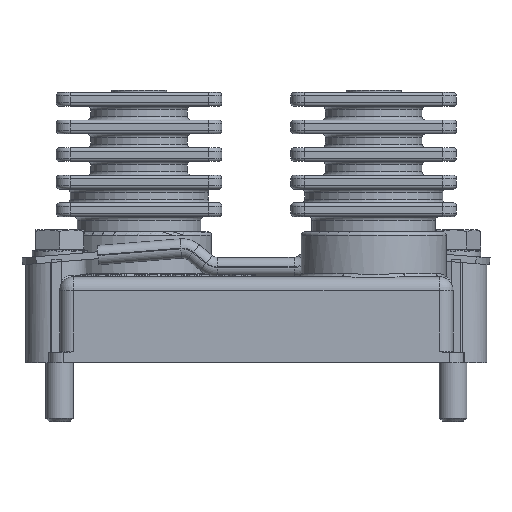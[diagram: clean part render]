
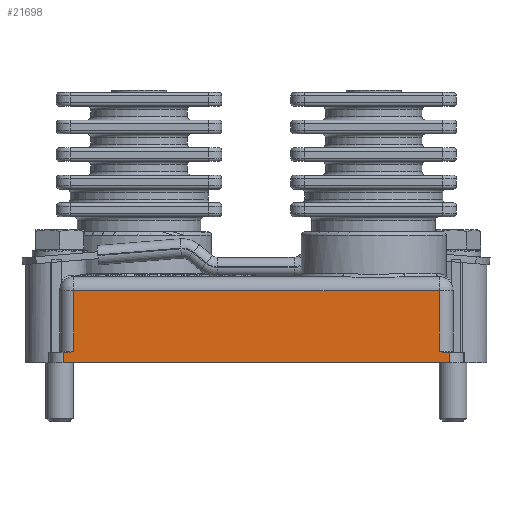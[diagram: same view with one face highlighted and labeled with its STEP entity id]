
A CAD part, left-side view. The second image highlights one B-rep face of the part: STEP entity #21698.
In plain terms, the highlighted planar face has unit normal (-1, 0, 0) as drawn and (0, -1, 0) by its records, which use the part's own axes.
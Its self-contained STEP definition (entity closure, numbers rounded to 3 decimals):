
#291=B_SPLINE_CURVE_WITH_KNOTS('',3,(#31045,#31046,#31047,#31048),
 .UNSPECIFIED.,.F.,.F.,(4,4),(0.,0.001),
 .UNSPECIFIED.);
#292=B_SPLINE_CURVE_WITH_KNOTS('',3,(#31053,#31054,#31055,#31056),
 .UNSPECIFIED.,.F.,.F.,(4,4),(0.,0.001),
 .UNSPECIFIED.);
#891=LINE('',#30405,#2132);
#978=LINE('',#31038,#2219);
#979=LINE('',#31041,#2220);
#980=LINE('',#31043,#2221);
#981=LINE('',#31050,#2222);
#982=LINE('',#31051,#2223);
#983=LINE('',#31058,#2224);
#984=LINE('',#31060,#2225);
#2132=VECTOR('',#25775,1000.);
#2219=VECTOR('',#25920,1000.);
#2220=VECTOR('',#25921,1000.);
#2221=VECTOR('',#25922,1000.);
#2222=VECTOR('',#25923,1000.);
#2223=VECTOR('',#25924,1000.);
#2224=VECTOR('',#25925,1000.);
#2225=VECTOR('',#25926,1000.);
#3193=PLANE('',#23129);
#5053=ORIENTED_EDGE('',*,*,#9110,.T.);
#5054=ORIENTED_EDGE('',*,*,#9111,.T.);
#5055=ORIENTED_EDGE('',*,*,#9112,.T.);
#5056=ORIENTED_EDGE('',*,*,#9113,.T.);
#5057=ORIENTED_EDGE('',*,*,#9114,.T.);
#5058=ORIENTED_EDGE('',*,*,#8931,.T.);
#5059=ORIENTED_EDGE('',*,*,#9115,.F.);
#5060=ORIENTED_EDGE('',*,*,#9116,.F.);
#5061=ORIENTED_EDGE('',*,*,#9117,.F.);
#5062=ORIENTED_EDGE('',*,*,#9118,.F.);
#8931=EDGE_CURVE('',#11034,#11036,#891,.T.);
#9110=EDGE_CURVE('',#11208,#11209,#978,.T.);
#9111=EDGE_CURVE('',#11209,#11210,#979,.T.);
#9112=EDGE_CURVE('',#11210,#11211,#980,.T.);
#9113=EDGE_CURVE('',#11211,#11212,#291,.T.);
#9114=EDGE_CURVE('',#11212,#11034,#981,.T.);
#9115=EDGE_CURVE('',#11213,#11036,#982,.T.);
#9116=EDGE_CURVE('',#11214,#11213,#292,.T.);
#9117=EDGE_CURVE('',#11215,#11214,#983,.T.);
#9118=EDGE_CURVE('',#11208,#11215,#984,.T.);
#11034=VERTEX_POINT('',#30399);
#11036=VERTEX_POINT('',#30404);
#11208=VERTEX_POINT('',#31039);
#11209=VERTEX_POINT('',#31040);
#11210=VERTEX_POINT('',#31042);
#11211=VERTEX_POINT('',#31044);
#11212=VERTEX_POINT('',#31049);
#11213=VERTEX_POINT('',#31052);
#11214=VERTEX_POINT('',#31057);
#11215=VERTEX_POINT('',#31059);
#13362=EDGE_LOOP('',(#5053,#5054,#5055,#5056,#5057,#5058,#5059,#5060,#5061,
#5062));
#14505=FACE_BOUND('',#13362,.T.);
#21698=ADVANCED_FACE('',(#14505),#3193,.T.);
#23129=AXIS2_PLACEMENT_3D('',#31037,#25918,#25919);
#25775=DIRECTION('',(-1.,0.,0.));
#25918=DIRECTION('',(0.,-1.,0.));
#25919=DIRECTION('',(0.,0.,-1.));
#25920=DIRECTION('',(1.,0.,0.));
#25921=DIRECTION('',(0.,0.,1.));
#25922=DIRECTION('',(-1.,0.,0.));
#25923=DIRECTION('',(0.,0.,1.));
#25924=DIRECTION('',(0.,0.,1.));
#25925=DIRECTION('',(1.,0.,0.));
#25926=DIRECTION('',(0.,0.,1.));
#30399=CARTESIAN_POINT('',(26.5,-30.,10.5));
#30404=CARTESIAN_POINT('',(-26.5,-30.,10.5));
#30405=CARTESIAN_POINT('',(0.,-30.,10.5));
#31037=CARTESIAN_POINT('',(0.,-30.,0.));
#31038=CARTESIAN_POINT('',(0.,-30.,0.));
#31039=CARTESIAN_POINT('',(-28.,-30.,0.));
#31040=CARTESIAN_POINT('',(28.,-30.,0.));
#31041=CARTESIAN_POINT('',(28.,-30.,1.5));
#31042=CARTESIAN_POINT('',(28.,-30.,1.5));
#31043=CARTESIAN_POINT('',(30.,-30.,1.5));
#31044=CARTESIAN_POINT('',(27.417,-30.,1.5));
#31045=CARTESIAN_POINT('',(27.417,-30.,1.5));
#31046=CARTESIAN_POINT('',(27.101,-30.,1.5));
#31047=CARTESIAN_POINT('',(26.798,-30.,1.606));
#31048=CARTESIAN_POINT('',(26.5,-30.,1.7));
#31049=CARTESIAN_POINT('',(26.5,-30.,1.7));
#31050=CARTESIAN_POINT('',(26.5,-30.,12.5));
#31051=CARTESIAN_POINT('',(-26.5,-30.,12.5));
#31052=CARTESIAN_POINT('',(-26.5,-30.,1.7));
#31053=CARTESIAN_POINT('',(-27.417,-30.,1.5));
#31054=CARTESIAN_POINT('',(-27.101,-30.,1.5));
#31055=CARTESIAN_POINT('',(-26.798,-30.,1.606));
#31056=CARTESIAN_POINT('',(-26.5,-30.,1.7));
#31057=CARTESIAN_POINT('',(-27.417,-30.,1.5));
#31058=CARTESIAN_POINT('',(-30.,-30.,1.5));
#31059=CARTESIAN_POINT('',(-28.,-30.,1.5));
#31060=CARTESIAN_POINT('',(-28.,-30.,1.5));
